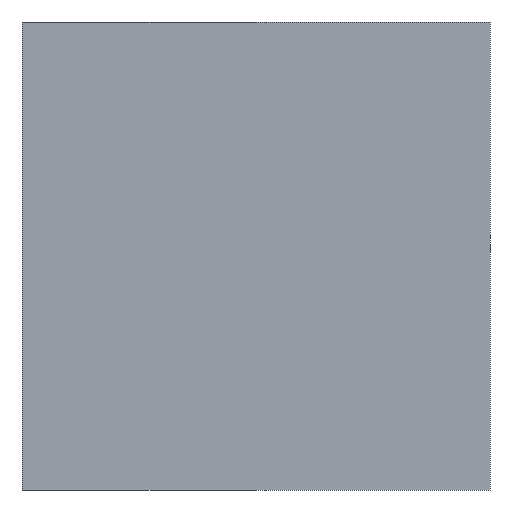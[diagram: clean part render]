
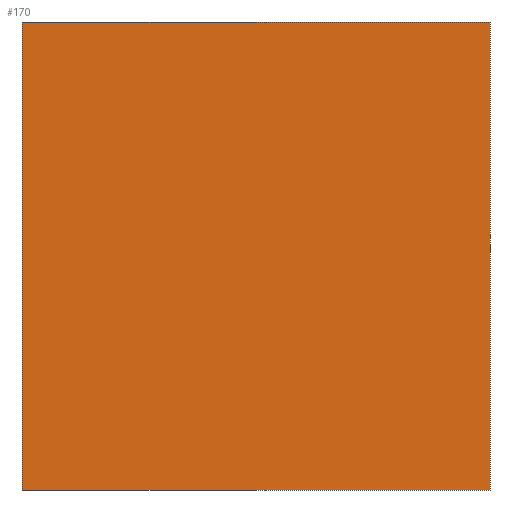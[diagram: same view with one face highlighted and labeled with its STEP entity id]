
A CAD part, left-side view. The second image highlights one B-rep face of the part: STEP entity #170.
In plain terms, the highlighted planar face has unit normal (-1, 0, 0).
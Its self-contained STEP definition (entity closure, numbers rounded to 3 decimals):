
#21 = VERTEX_POINT ( 'NONE', #999 ) ;
#32 = CARTESIAN_POINT ( 'NONE',  ( -450., 450., 450. ) ) ;
#40 = LINE ( 'NONE', #366, #602 ) ;
#64 = DIRECTION ( 'NONE',  ( -1., 0., 0. ) ) ;
#85 = CARTESIAN_POINT ( 'NONE',  ( -450., 0., 450. ) ) ;
#87 = ORIENTED_EDGE ( 'NONE', *, *, #1034, .T. ) ;
#133 = PLANE ( 'NONE',  #157 ) ;
#157 = AXIS2_PLACEMENT_3D ( 'NONE', #879, #64, #483 ) ;
#170 = ADVANCED_FACE ( 'NONE', ( #863 ), #133, .T. ) ;
#173 = VECTOR ( 'NONE', #1011, 1000. ) ;
#174 = EDGE_LOOP ( 'NONE', ( #533, #420, #87, #227 ) ) ;
#212 = VERTEX_POINT ( 'NONE', #798 ) ;
#227 = ORIENTED_EDGE ( 'NONE', *, *, #372, .T. ) ;
#289 = CARTESIAN_POINT ( 'NONE',  ( -450., 0., 450. ) ) ;
#342 = LINE ( 'NONE', #289, #173 ) ;
#366 = CARTESIAN_POINT ( 'NONE',  ( -450., 0., 0. ) ) ;
#372 = EDGE_CURVE ( 'NONE', #907, #21, #496, .T. ) ;
#399 = VERTEX_POINT ( 'NONE', #85 ) ;
#414 = VECTOR ( 'NONE', #821, 1000. ) ;
#420 = ORIENTED_EDGE ( 'NONE', *, *, #754, .F. ) ;
#483 = DIRECTION ( 'NONE',  ( 0., 0., 1. ) ) ;
#496 = LINE ( 'NONE', #891, #414 ) ;
#533 = ORIENTED_EDGE ( 'NONE', *, *, #544, .F. ) ;
#544 = EDGE_CURVE ( 'NONE', #212, #21, #40, .T. ) ;
#602 = VECTOR ( 'NONE', #854, 1000. ) ;
#653 = VECTOR ( 'NONE', #727, 1000. ) ;
#727 = DIRECTION ( 'NONE',  ( 0., 0., -1. ) ) ;
#754 = EDGE_CURVE ( 'NONE', #399, #212, #865, .T. ) ;
#798 = CARTESIAN_POINT ( 'NONE',  ( -450., 0., 0. ) ) ;
#821 = DIRECTION ( 'NONE',  ( 0., 0., -1. ) ) ;
#854 = DIRECTION ( 'NONE',  ( 0., 1., 0. ) ) ;
#863 = FACE_OUTER_BOUND ( 'NONE', #174, .T. ) ;
#865 = LINE ( 'NONE', #1047, #653 ) ;
#879 = CARTESIAN_POINT ( 'NONE',  ( -450., 0., 450. ) ) ;
#891 = CARTESIAN_POINT ( 'NONE',  ( -450., 450., 450. ) ) ;
#907 = VERTEX_POINT ( 'NONE', #32 ) ;
#999 = CARTESIAN_POINT ( 'NONE',  ( -450., 450., 0. ) ) ;
#1011 = DIRECTION ( 'NONE',  ( 0., 1., 0. ) ) ;
#1034 = EDGE_CURVE ( 'NONE', #399, #907, #342, .T. ) ;
#1047 = CARTESIAN_POINT ( 'NONE',  ( -450., 0., 450. ) ) ;
